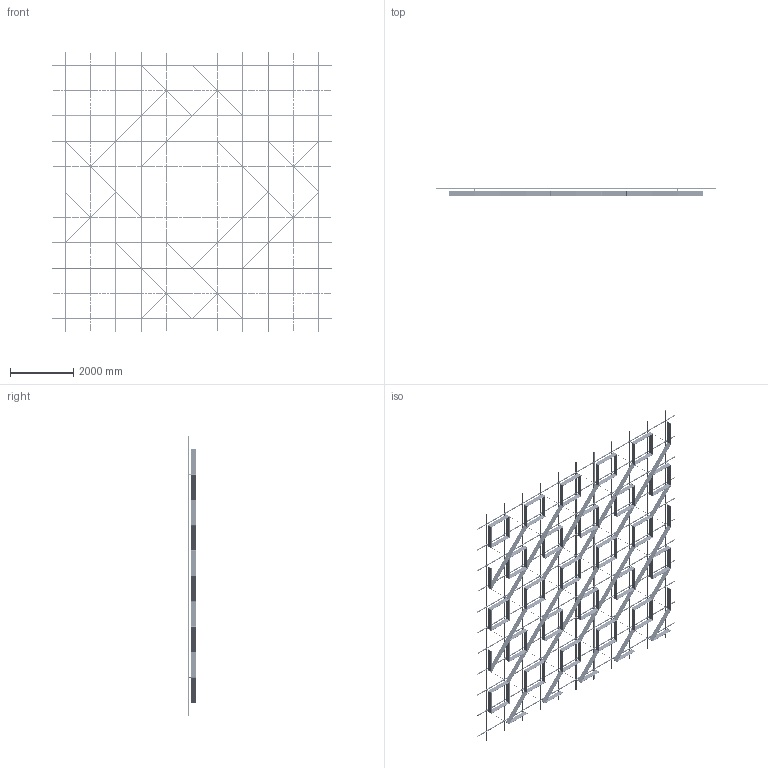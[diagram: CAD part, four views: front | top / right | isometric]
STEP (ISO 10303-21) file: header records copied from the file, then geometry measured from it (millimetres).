
FILE_DESCRIPTION (( 'STEP AP214' ), '1' );
FILE_NAME ('OPT_Var28.STEP', '2025-09-11T13:06:14', ( '' ), ( '' ), 'SwSTEP 2.0', 'SolidWorks 2020', '' );
FILE_SCHEMA (( 'AUTOMOTIVE_DESIGN' ));
Length unit declared in the file: millimetre
Products named in the file (5): OPT_Var28; SS.SEMA.2400 - Ñèìà-ïðîôèëü; Ñèñòåìà â çîíå 8000õ8000; SS.SEMA.2400 - Ñèìà-ïðîôèëü — îáðåçàí 1600; 謶鎷ar28
Assembly tree (90 placements, depth 3):
  OPT_Var28
    Ñèñòåìà â çîíå 8000õ8000
      SS.SEMA.2400 - Ñèìà-ïðîôèëü  x66
      SS.SEMA.2400 - Ñèìà-ïðîôèëü — îáðåçàí 1600  x22
    謶鎷ar28
Bounding box: 8800 x 253 x 8800 mm (x, y, z)
Volume: 223396464 mm3; surface area: 82462752.8 mm2
Topology: 753 solids, 753 shells, 19530 faces, 52664 edges, 34640 vertices
Faces by surface type: cylinder 12818, plane 6712
Entity records: 88254 total; most frequent: CARTESIAN_POINT 18264, DIRECTION 12254, ORIENTED_EDGE 12176, EDGE_CURVE 6088, AXIS2_PLACEMENT_3D 5878, VERTEX_POINT 4048, EDGE_LOOP 3536, FACE_OUTER_BOUND 3374
